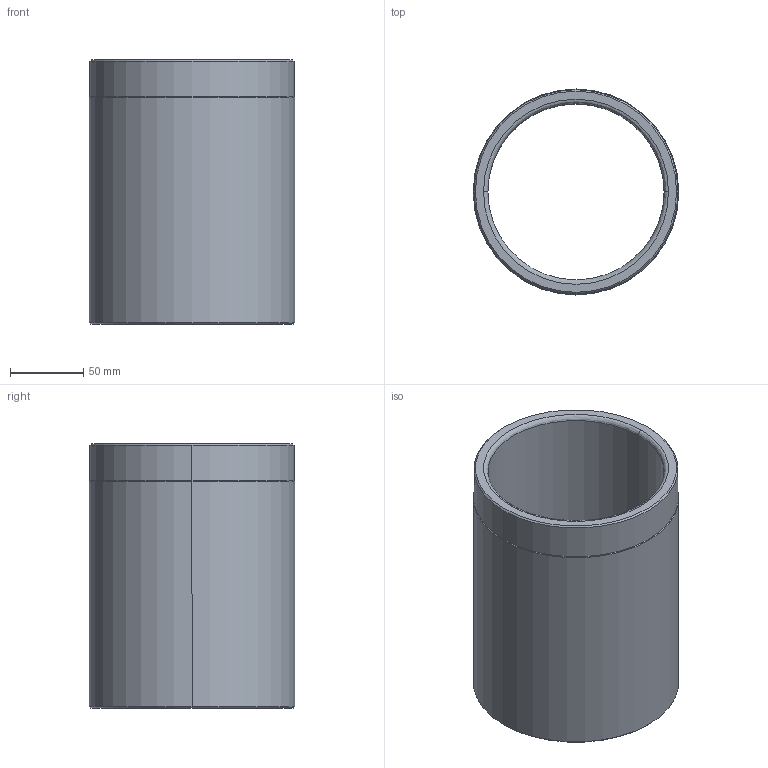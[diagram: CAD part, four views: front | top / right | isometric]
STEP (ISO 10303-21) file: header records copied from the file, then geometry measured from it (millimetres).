
FILE_DESCRIPTION((''),'2;1');
FILE_NAME('','2010-08-30T17:16:38+09:00',('misumi'),(''),'M/STEP i/f 1R2-14','CADmeister v5.1','');
FILE_SCHEMA(('AUTOMOTIVE_DESIGN'));
Length unit declared in the file: millimetre
Products named in the file (1): GBW120
Bounding box: 140 x 140 x 180 mm (x, y, z)
Volume: 723187.6 mm3; surface area: 153167.5 mm2
Topology: 1 solids, 1 shells, 20 faces, 40 edges, 22 vertices
Faces by surface type: cone 8, cylinder 6, revolution 4, plane 2
Entity records: 829 total; most frequent: DIRECTION 112, CARTESIAN_POINT 87, ORIENTED_EDGE 80, COLOUR_RGB 51, AXIS2_PLACEMENT_3D 47, CURVE_STYLE 46, PRESENTATION_STYLE_ASSIGNMENT 45, OVER_RIDING_STYLED_ITEM 44
